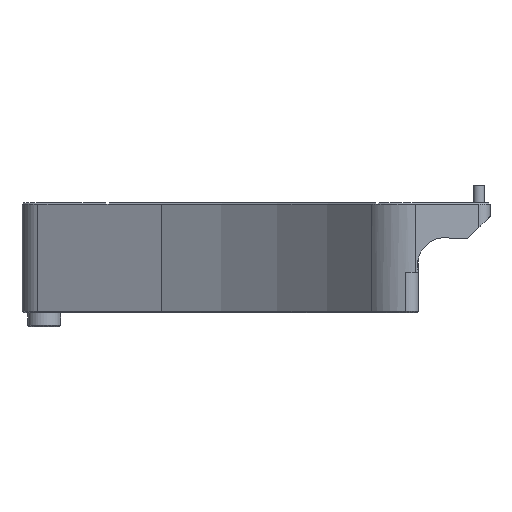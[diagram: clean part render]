
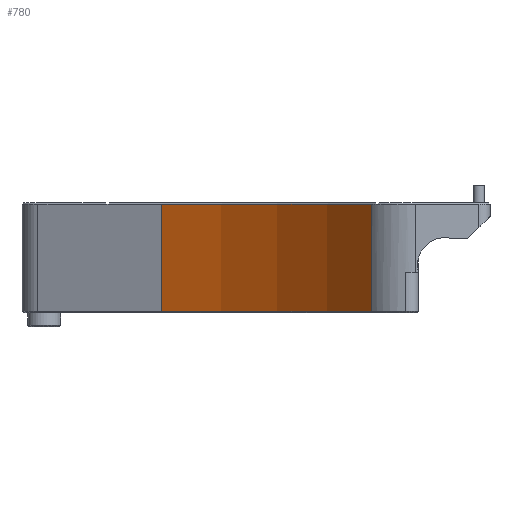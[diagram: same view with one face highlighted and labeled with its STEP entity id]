
A CAD part, front view. The second image highlights one B-rep face of the part: STEP entity #780.
In plain terms, the highlighted cylindrical face has radius 100 mm (diameter 200 mm), a partial arc.
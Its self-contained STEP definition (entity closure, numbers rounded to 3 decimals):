
#440=LINE('',#4800,#590);
#442=LINE('',#4804,#592);
#590=VECTOR('',#3230,1.);
#592=VECTOR('',#3234,1.);
#662=CYLINDRICAL_SURFACE('',#2845,100.);
#780=ADVANCED_FACE('',(#981),#662,.F.);
#981=FACE_OUTER_BOUND('',#1139,.T.);
#1139=EDGE_LOOP('',(#1660,#1661,#1662,#1663));
#1660=ORIENTED_EDGE('',*,*,#2572,.T.);
#1661=ORIENTED_EDGE('',*,*,#2573,.T.);
#1662=ORIENTED_EDGE('',*,*,#2570,.F.);
#1663=ORIENTED_EDGE('',*,*,#2574,.T.);
#2267=VERTEX_POINT('',#4799);
#2268=VERTEX_POINT('',#4801);
#2269=VERTEX_POINT('',#4805);
#2270=VERTEX_POINT('',#4806);
#2570=EDGE_CURVE('',#2267,#2268,#440,.T.);
#2572=EDGE_CURVE('',#2269,#2270,#442,.T.);
#2573=EDGE_CURVE('',#2270,#2268,#2721,.T.);
#2574=EDGE_CURVE('',#2267,#2269,#2722,.T.);
#2721=CIRCLE('',#2843,100.);
#2722=CIRCLE('',#2844,100.);
#2843=AXIS2_PLACEMENT_3D('',#4807,#3235,#3236);
#2844=AXIS2_PLACEMENT_3D('',#4808,#3237,#3238);
#2845=AXIS2_PLACEMENT_3D('',#4809,#3239,#3240);
#3230=DIRECTION('',(0.,0.,1.));
#3234=DIRECTION('',(0.,0.,1.));
#3235=DIRECTION('',(0.,0.,1.));
#3236=DIRECTION('',(0.,1.,0.));
#3237=DIRECTION('',(0.,0.,-1.));
#3238=DIRECTION('',(0.,1.,0.));
#3239=DIRECTION('',(0.,0.,1.));
#3240=DIRECTION('',(0.,1.,0.));
#4799=CARTESIAN_POINT('',(-52.208,-19.794,-37.25));
#4800=CARTESIAN_POINT('',(-52.208,-19.794,-37.5));
#4801=CARTESIAN_POINT('',(-52.208,-19.794,-17.75));
#4804=CARTESIAN_POINT('',(-14.08,-50.948,-37.5));
#4805=CARTESIAN_POINT('',(-14.08,-50.948,-37.25));
#4806=CARTESIAN_POINT('',(-14.08,-50.948,-17.75));
#4807=CARTESIAN_POINT('',(-94.47,-110.425,-17.75));
#4808=CARTESIAN_POINT('',(-94.47,-110.425,-37.25));
#4809=CARTESIAN_POINT('',(-94.47,-110.425,-37.5));
